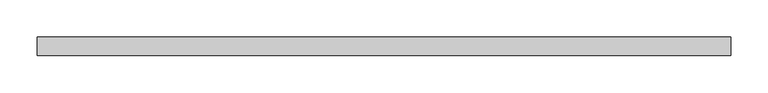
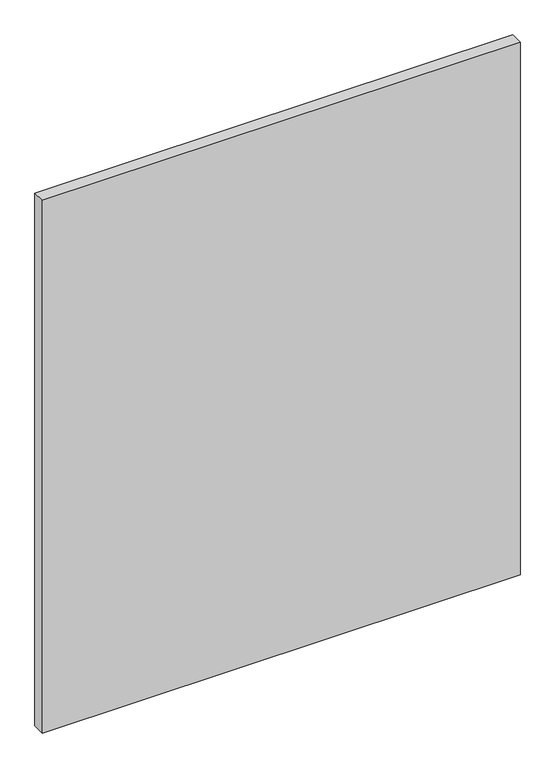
"""IFC4 building model written with IfcOpenShell, lengths in millimetres: plate geometry, 系統嵌板 : 有玻璃的."""

from ifc_helpers import new_model, si_unit, origin, origin_with_axes, place, context, project, spatial, polyline, outline, extrude, source, transform, mapped, element, save


def plate_39faa012(model_context):
    return source(origin(), model_context, "Body", "SweptSolid", [
        extrude(outline(polyline([(466.5797973, 24.5), (-466.5797973, 24.5), (-466.5797973, 49.5), (466.5797973, 49.5), (466.5797973, 24.5)])), origin_with_axes(), (0.0, 0.0, 1.0), 1099.8779336),
    ])


if __name__ == "__main__":
    model = new_model("IFC4")
    model_context = context("Model", 3, world=origin())
    ifc_project = project(units=[si_unit("LENGTHUNIT", "METRE", prefix="MILLI")], contexts=[model_context])
    site = spatial("IfcSite", under=ifc_project)
    building = spatial("IfcBuilding", under=site)
    placement = place(None, origin())
    plate_shape = plate_39faa012(model_context)
    element("IfcPlate", 1, ObjectType="系統嵌板 : 有玻璃的", at=placement, inside=building, context=model_context, shape_type="MappedRepresentation", body=[
        mapped(plate_shape, transform((0.0, 0.0, 0.0), x_axis=(1.0, 0.0, 0.0), y_axis=(0.0, 1.0, 0.0), z_axis=(0.0, 0.0, 1.0))),
    ])
    save(model, "model.ifc")
